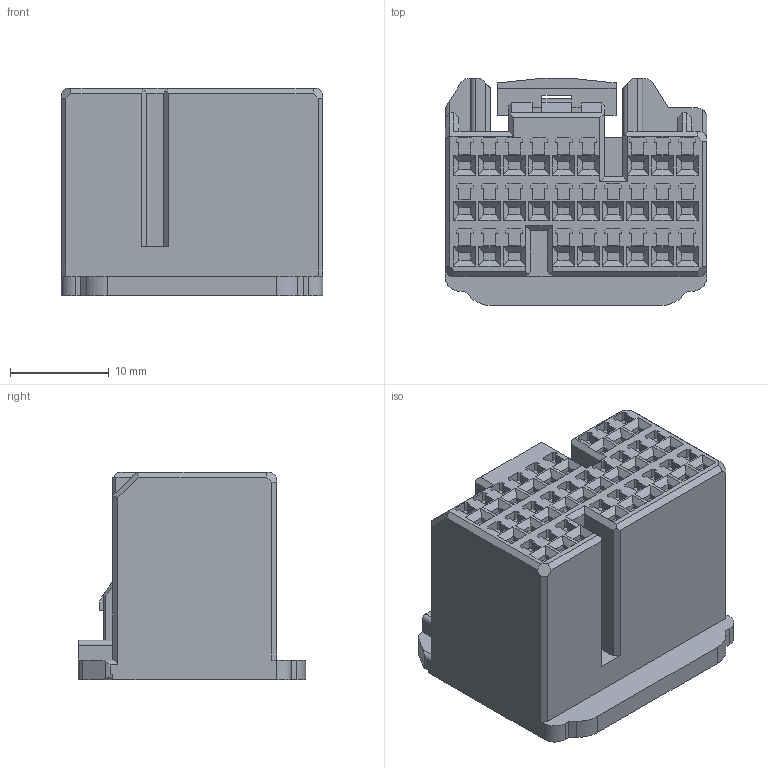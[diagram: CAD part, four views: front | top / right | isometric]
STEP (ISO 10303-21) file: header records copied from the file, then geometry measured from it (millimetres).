
FILE_DESCRIPTION((''),'2;1');
FILE_NAME('C-0353030-01-3','2007-09-08T',('workeradm'),('Tyco Electronics Corporation'),'PRO/ENGINEER BY PARAMETRIC TECHNOLOGY CORPORATION, 2005450','PRO/ENGINEER BY PARAMETRIC TECHNOLOGY CORPORATION, 2005450','');
FILE_SCHEMA(('CONFIG_CONTROL_DESIGN', 'GEOMETRIC_VALIDATION_PROPERTIES_MIM'));
Length unit declared in the file: millimetre
Products named in the file (1): C-0353030-01-3
Bounding box: 26.5 x 23 x 21 mm (x, y, z)
Volume: 8168.4 mm3; surface area: 4299.3 mm2
Topology: 1 solids, 1 shells, 1325 faces, 3547 edges, 2319 vertices
Faces by surface type: plane 1303, cylinder 22
Entity records: 40472 total; most frequent: CARTESIAN_POINT 7264, ORIENTED_EDGE 7094, DIRECTION 6214, EDGE_CURVE 3547, VECTOR 3500, LINE 3500, VERTEX_POINT 2319, EDGE_LOOP 1422
